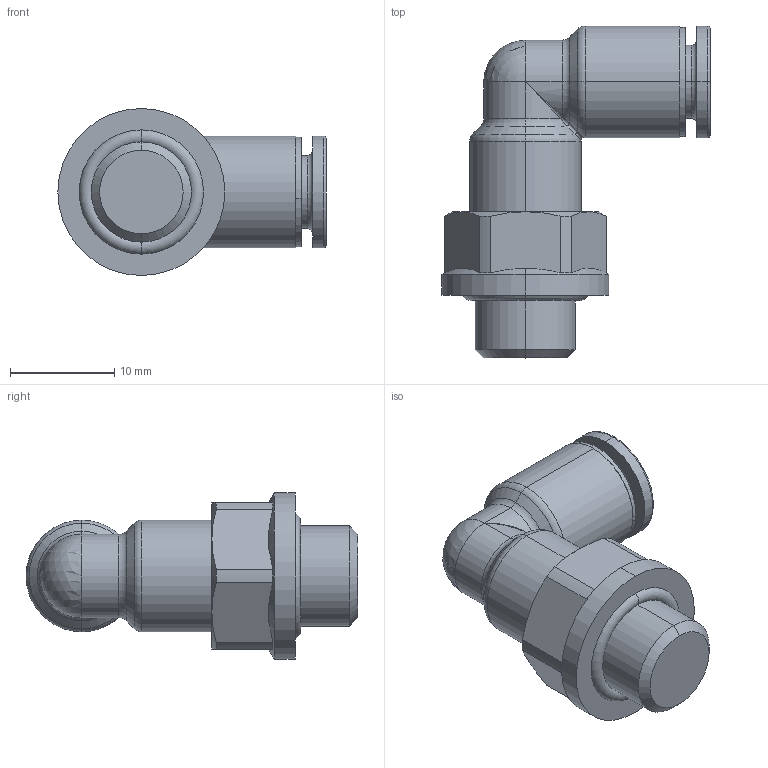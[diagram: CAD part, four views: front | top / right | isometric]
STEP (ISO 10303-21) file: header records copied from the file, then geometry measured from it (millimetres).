
FILE_DESCRIPTION (( 'STEP AP214' ), '1' );
FILE_NAME ('5411700013A.STEP', '2025-06-27T13:36:29', ( '' ), ( '' ), 'SwSTEP 2.0', 'SolidWorks 2020', '' );
FILE_SCHEMA (( 'AUTOMOTIVE_DESIGN' ));
Length unit declared in the file: millimetre
Products named in the file (1): 5411700013A
Bounding box: 25.7 x 31.8 x 16 mm (x, y, z)
Volume: 3689.5 mm3; surface area: 2265.9 mm2
Topology: 1 solids, 3 shells, 187 faces, 447 edges, 278 vertices
Faces by surface type: plane 78, bspline 36, cylinder 34, cone 22, torus 16, sphere 1
Entity records: 9148 total; most frequent: CARTESIAN_POINT 3039, ORIENTED_EDGE 886, DIRECTION 767, EDGE_CURVE 443, VERTEX_POINT 278, AXIS2_PLACEMENT_3D 266, LINE 235, VECTOR 235
